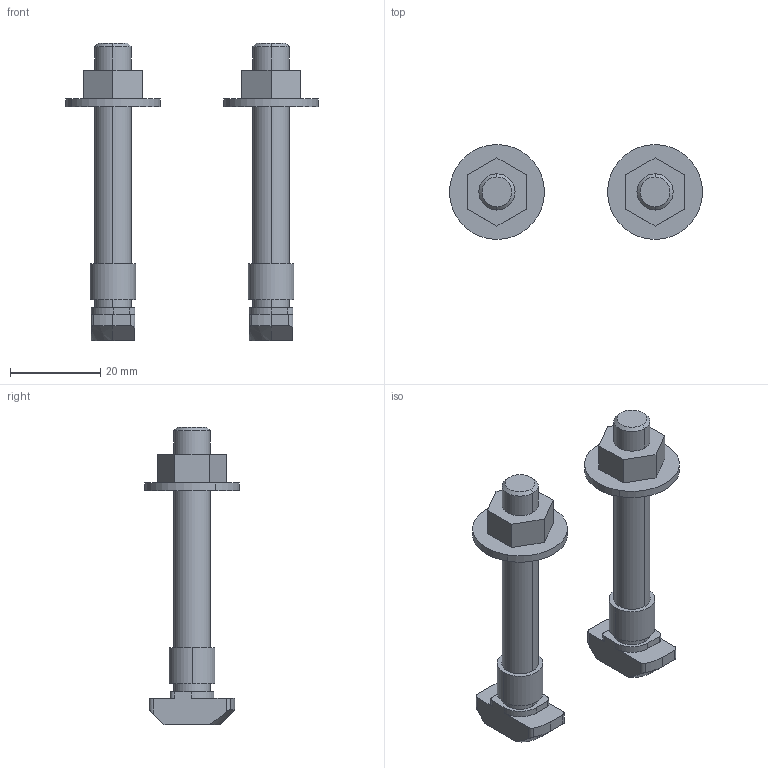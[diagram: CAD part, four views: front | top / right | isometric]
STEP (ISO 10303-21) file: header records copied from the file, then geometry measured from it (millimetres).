
FILE_DESCRIPTION (( 'STEP AP203' ), '1' );
FILE_NAME ('75000036-ASU-ASM-ASMHS-ASB-ASREL.STEP', '2016-11-22T11:01:46', ( '' ), ( '' ), 'SwSTEP 2.0', 'SolidWorks 2015', '' );
FILE_SCHEMA (( 'CONFIG_CONTROL_DESIGN' ));
Length unit declared in the file: millimetre
Products named in the file (1): 75000036-ASU-ASM-ASMHS-ASB-ASREL
Bounding box: 56 x 21 x 65.8 mm (x, y, z)
Volume: 10669.9 mm3; surface area: 6857.9 mm2
Topology: 2 solids, 2 shells, 100 faces, 246 edges, 160 vertices
Faces by surface type: plane 48, cylinder 44, cone 8
Entity records: 3289 total; most frequent: CARTESIAN_POINT 803, DIRECTION 508, ORIENTED_EDGE 492, EDGE_CURVE 246, AXIS2_PLACEMENT_3D 181, VERTEX_POINT 160, LINE 146, VECTOR 146
